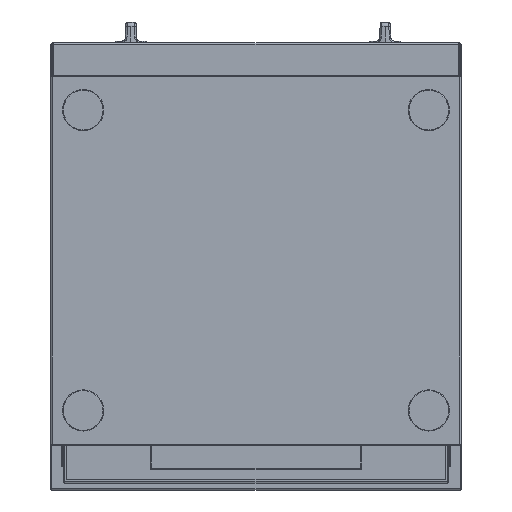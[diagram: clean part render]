
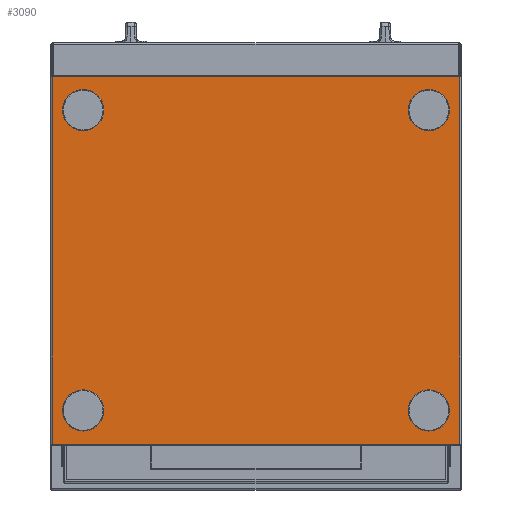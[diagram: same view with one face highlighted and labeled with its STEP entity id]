
A CAD part, front view. The second image highlights one B-rep face of the part: STEP entity #3090.
In plain terms, the highlighted planar face has unit normal (0, -1, 0).
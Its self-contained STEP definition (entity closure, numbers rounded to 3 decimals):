
#876=CARTESIAN_POINT('',(252.,-352.5,-219.));
#877=DIRECTION('',(0.,-1.,0.));
#878=DIRECTION('',(1.,0.,0.));
#879=AXIS2_PLACEMENT_3D('',#876,#877,#878);
#881=CARTESIAN_POINT('',(252.,-352.5,-219.));
#882=DIRECTION('',(0.,-1.,0.));
#883=DIRECTION('',(-1.,0.,0.));
#884=AXIS2_PLACEMENT_3D('',#881,#882,#883);
#886=CARTESIAN_POINT('',(252.,-352.5,219.));
#887=DIRECTION('',(0.,-1.,0.));
#888=DIRECTION('',(1.,0.,0.));
#889=AXIS2_PLACEMENT_3D('',#886,#887,#888);
#891=CARTESIAN_POINT('',(252.,-352.5,219.));
#892=DIRECTION('',(0.,-1.,0.));
#893=DIRECTION('',(-1.,0.,0.));
#894=AXIS2_PLACEMENT_3D('',#891,#892,#893);
#896=CARTESIAN_POINT('',(-252.,-352.5,-219.));
#897=DIRECTION('',(0.,1.,0.));
#898=DIRECTION('',(-1.,0.,0.));
#899=AXIS2_PLACEMENT_3D('',#896,#897,#898);
#901=CARTESIAN_POINT('',(-252.,-352.5,-219.));
#902=DIRECTION('',(0.,1.,0.));
#903=DIRECTION('',(1.,0.,0.));
#904=AXIS2_PLACEMENT_3D('',#901,#902,#903);
#906=CARTESIAN_POINT('',(-252.,-352.5,219.));
#907=DIRECTION('',(0.,1.,0.));
#908=DIRECTION('',(-1.,0.,0.));
#909=AXIS2_PLACEMENT_3D('',#906,#907,#908);
#911=CARTESIAN_POINT('',(-252.,-352.5,219.));
#912=DIRECTION('',(0.,1.,0.));
#913=DIRECTION('',(1.,0.,0.));
#914=AXIS2_PLACEMENT_3D('',#911,#912,#913);
#916=DIRECTION('',(0.,0.,-1.));
#917=VECTOR('',#916,536.4);
#918=CARTESIAN_POINT('',(297.2,-352.5,268.2));
#919=LINE('',#918,#917);
#920=DIRECTION('',(-1.,0.,0.));
#921=VECTOR('',#920,594.4);
#922=CARTESIAN_POINT('',(297.2,-352.5,-268.2));
#923=LINE('',#922,#921);
#924=DIRECTION('',(0.,0.,1.));
#925=VECTOR('',#924,536.4);
#926=CARTESIAN_POINT('',(-297.2,-352.5,-268.2));
#927=LINE('',#926,#925);
#928=DIRECTION('',(-1.,0.,0.));
#929=VECTOR('',#928,594.4);
#930=CARTESIAN_POINT('',(297.2,-352.5,268.2));
#931=LINE('',#930,#929);
#1455=CARTESIAN_POINT('',(282.,-352.5,-219.));
#1456=CARTESIAN_POINT('',(222.,-352.5,-219.));
#1457=VERTEX_POINT('',#1455);
#1458=VERTEX_POINT('',#1456);
#1487=CARTESIAN_POINT('',(297.2,-352.5,268.2));
#1488=CARTESIAN_POINT('',(297.2,-352.5,-268.2));
#1489=VERTEX_POINT('',#1487);
#1490=VERTEX_POINT('',#1488);
#1493=CARTESIAN_POINT('',(-297.2,-352.5,268.2));
#1494=VERTEX_POINT('',#1493);
#1497=CARTESIAN_POINT('',(-297.2,-352.5,-268.2));
#1498=VERTEX_POINT('',#1497);
#1555=CARTESIAN_POINT('',(282.,-352.5,219.));
#1556=CARTESIAN_POINT('',(222.,-352.5,219.));
#1557=VERTEX_POINT('',#1555);
#1558=VERTEX_POINT('',#1556);
#1563=CARTESIAN_POINT('',(-282.,-352.5,-219.));
#1564=VERTEX_POINT('',#1563);
#1565=CARTESIAN_POINT('',(-222.,-352.5,-219.));
#1566=VERTEX_POINT('',#1565);
#1571=CARTESIAN_POINT('',(-282.,-352.5,219.));
#1572=VERTEX_POINT('',#1571);
#1573=CARTESIAN_POINT('',(-222.,-352.5,219.));
#1574=VERTEX_POINT('',#1573);
#3053=CARTESIAN_POINT('',(-299.,-352.5,270.));
#3054=DIRECTION('',(0.,-1.,0.));
#3055=DIRECTION('',(0.,0.,-1.));
#3056=AXIS2_PLACEMENT_3D('',#3053,#3054,#3055);
#3057=PLANE('',#3056);
#3059=ORIENTED_EDGE('',*,*,#3058,.T.);
#3061=ORIENTED_EDGE('',*,*,#3060,.T.);
#3062=ORIENTED_EDGE('',*,*,#3021,.T.);
#3063=ORIENTED_EDGE('',*,*,#3044,.F.);
#3064=EDGE_LOOP('',(#3059,#3061,#3062,#3063));
#3065=FACE_OUTER_BOUND('',#3064,.F.);
#3067=ORIENTED_EDGE('',*,*,#3066,.T.);
#3069=ORIENTED_EDGE('',*,*,#3068,.T.);
#3070=EDGE_LOOP('',(#3067,#3069));
#3071=FACE_BOUND('',#3070,.F.);
#3073=ORIENTED_EDGE('',*,*,#3072,.F.);
#3075=ORIENTED_EDGE('',*,*,#3074,.F.);
#3076=EDGE_LOOP('',(#3073,#3075));
#3077=FACE_BOUND('',#3076,.F.);
#3079=ORIENTED_EDGE('',*,*,#3078,.F.);
#3081=ORIENTED_EDGE('',*,*,#3080,.F.);
#3082=EDGE_LOOP('',(#3079,#3081));
#3083=FACE_BOUND('',#3082,.F.);
#3085=ORIENTED_EDGE('',*,*,#3084,.T.);
#3087=ORIENTED_EDGE('',*,*,#3086,.T.);
#3088=EDGE_LOOP('',(#3085,#3087));
#3089=FACE_BOUND('',#3088,.F.);
#880=CIRCLE('',#879,30.);
#885=CIRCLE('',#884,30.);
#890=CIRCLE('',#889,30.);
#895=CIRCLE('',#894,30.);
#900=CIRCLE('',#899,30.);
#905=CIRCLE('',#904,30.);
#910=CIRCLE('',#909,30.);
#915=CIRCLE('',#914,30.);
#3021=EDGE_CURVE('',#1498,#1494,#927,.T.);
#3044=EDGE_CURVE('',#1489,#1494,#931,.T.);
#3058=EDGE_CURVE('',#1489,#1490,#919,.T.);
#3060=EDGE_CURVE('',#1490,#1498,#923,.T.);
#3066=EDGE_CURVE('',#1557,#1558,#890,.T.);
#3068=EDGE_CURVE('',#1558,#1557,#895,.T.);
#3072=EDGE_CURVE('',#1564,#1566,#900,.T.);
#3074=EDGE_CURVE('',#1566,#1564,#905,.T.);
#3078=EDGE_CURVE('',#1572,#1574,#910,.T.);
#3080=EDGE_CURVE('',#1574,#1572,#915,.T.);
#3084=EDGE_CURVE('',#1457,#1458,#880,.T.);
#3086=EDGE_CURVE('',#1458,#1457,#885,.T.);
#3090=ADVANCED_FACE('',(#3065,#3071,#3077,#3083,#3089),#3057,.T.);
